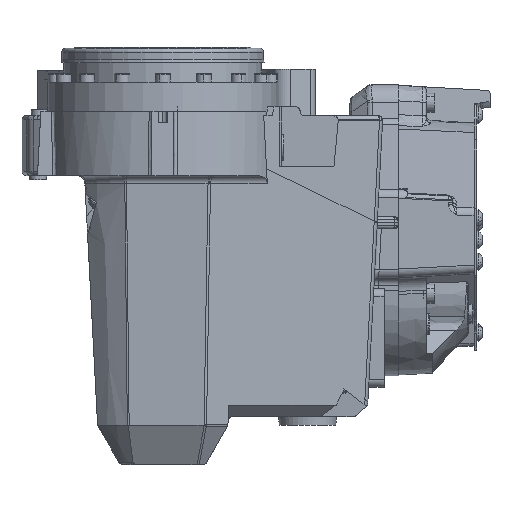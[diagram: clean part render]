
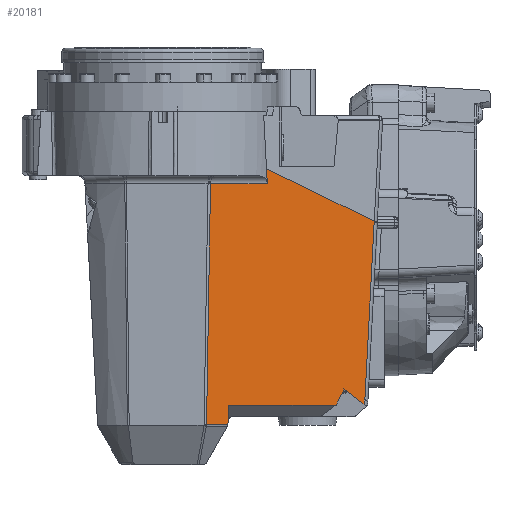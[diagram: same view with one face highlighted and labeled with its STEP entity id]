
A CAD part, front view. The second image highlights one B-rep face of the part: STEP entity #20181.
In plain terms, the highlighted planar face has unit normal (0.573, -0.818, -0.052).
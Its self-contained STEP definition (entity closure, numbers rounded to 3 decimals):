
#13808 = VERTEX_POINT ( 'NONE', #32224 ) ;
#13809 = VERTEX_POINT ( 'NONE', #32226 ) ;
#13815 = VERTEX_POINT ( 'NONE', #32237 ) ;
#13816 = VERTEX_POINT ( 'NONE', #32238 ) ;
#13817 = VERTEX_POINT ( 'NONE', #32239 ) ;
#13818 = VERTEX_POINT ( 'NONE', #32240 ) ;
#13819 = VERTEX_POINT ( 'NONE', #32241 ) ;
#13820 = VERTEX_POINT ( 'NONE', #32242 ) ;
#13847 = VERTEX_POINT ( 'NONE', #32275 ) ;
#13915 = VERTEX_POINT ( 'NONE', #32365 ) ;
#13916 = VERTEX_POINT ( 'NONE', #32367 ) ;
#16755 = AXIS2_PLACEMENT_3D ( 'NONE', #19202, #19212, #19213 ) ;
#19202 = CARTESIAN_POINT ( 'NONE',  ( 312., 1061.374, 74. ) ) ;
#19203 = PLANE ( 'NONE',  #16755 ) ;
#19212 = DIRECTION ( 'NONE',  ( 0.573, -0.818, -0.052 ) ) ;
#19213 = DIRECTION ( 'NONE',  ( 0.819, 0.574, 0. ) ) ;
#20181 = ADVANCED_FACE ( 'NONE', ( #20661 ), #19203, .T. ) ;
#20661 = FACE_OUTER_BOUND ( 'NONE', #51425, .T. ) ;
#32224 = CARTESIAN_POINT ( 'NONE',  ( 299.599, 1065.231, -122.005 ) ) ;
#32226 = CARTESIAN_POINT ( 'NONE',  ( 305.993, 1061.902, 0. ) ) ;
#32237 = CARTESIAN_POINT ( 'NONE',  ( 299.189, 1064.924, -121.696 ) ) ;
#32238 = CARTESIAN_POINT ( 'NONE',  ( 299., 1065.023, -125.31 ) ) ;
#32239 = CARTESIAN_POINT ( 'NONE',  ( 285.34, 1054.799, -115.013 ) ) ;
#32240 = CARTESIAN_POINT ( 'NONE',  ( 279.687, 1051.545, -126.011 ) ) ;
#32241 = CARTESIAN_POINT ( 'NONE',  ( 205.718, 999.751, -126.011 ) ) ;
#32242 = CARTESIAN_POINT ( 'NONE',  ( 205.022, 1000.113, -139.281 ) ) ;
#32275 = CARTESIAN_POINT ( 'NONE',  ( 232.18, 1008.502, 26.814 ) ) ;
#32365 = CARTESIAN_POINT ( 'NONE',  ( 306.046, 1061.875, 1.013 ) ) ;
#32367 = CARTESIAN_POINT ( 'NONE',  ( 231.685, 1007.487, 37.28 ) ) ;
#34412 =( BOUNDED_CURVE ( )  B_SPLINE_CURVE ( 3, ( #48578, #48582, #48583, #48584 ),
 .UNSPECIFIED., .F., .T. ) 
 B_SPLINE_CURVE_WITH_KNOTS ( ( 4, 4 ),
 ( 0.5, 0.514 ),
 .UNSPECIFIED. ) 
 CURVE ( )  GEOMETRIC_REPRESENTATION_ITEM ( )  RATIONAL_B_SPLINE_CURVE ( ( 1., 1., 1., 1. ) ) 
 REPRESENTATION_ITEM ( '' )  );
#41059 = LINE ( 'NONE', #47001, #41065 ) ;
#41061 = VECTOR ( 'NONE', #46997, 1000. ) ;
#41065 = VECTOR ( 'NONE', #47003, 1000. ) ;
#41070 = LINE ( 'NONE', #46978, #41061 ) ;
#41073 = LINE ( 'NONE', #47015, #41080 ) ;
#41078 = LINE ( 'NONE', #47014, #41081 ) ;
#41080 = VECTOR ( 'NONE', #47016, 1000. ) ;
#41081 = VECTOR ( 'NONE', #47017, 1000. ) ;
#41083 = VECTOR ( 'NONE', #47034, 1000. ) ;
#41086 = LINE ( 'NONE', #47033, #41083 ) ;
#41087 = LINE ( 'NONE', #47026, #41088 ) ;
#41088 = VECTOR ( 'NONE', #47027, 1000. ) ;
#41089 = LINE ( 'NONE', #47028, #41090 ) ;
#41090 = VECTOR ( 'NONE', #47029, 1000. ) ;
#41091 = LINE ( 'NONE', #47038, #41096 ) ;
#41093 = VECTOR ( 'NONE', #47049, 1000. ) ;
#41095 = LINE ( 'NONE', #47044, #41093 ) ;
#41096 = VECTOR ( 'NONE', #47039, 1000. ) ;
#41584 = CARTESIAN_POINT ( 'NONE',  ( 192.994, 981.064, 26.814 ) ) ;
#41767 = CARTESIAN_POINT ( 'NONE',  ( 190.249, 989.769, -139.281 ) ) ;
#44031 = VERTEX_POINT ( 'NONE', #41584 ) ;
#44230 = VERTEX_POINT ( 'NONE', #41767 ) ;
#46978 = CARTESIAN_POINT ( 'NONE',  ( 233.233, 1015.801, -75.733 ) ) ;
#46997 = DIRECTION ( 'NONE',  ( -0.685, -0.513, 0.517 ) ) ;
#47001 = CARTESIAN_POINT ( 'NONE',  ( 309.875, 1059.882, 74.071 ) ) ;
#47003 = DIRECTION ( 'NONE',  ( 0.052, -0.027, 0.998 ) ) ;
#47014 = CARTESIAN_POINT ( 'NONE',  ( 309.449, 1059.583, 74.085 ) ) ;
#47015 = CARTESIAN_POINT ( 'NONE',  ( 234.648, 1016.62, -73.043 ) ) ;
#47016 = DIRECTION ( 'NONE',  ( 0.685, 0.513, -0.517 ) ) ;
#47017 = DIRECTION ( 'NONE',  ( 0.052, -0.027, 0.998 ) ) ;
#47026 = CARTESIAN_POINT ( 'NONE',  ( 292.885, 1060.786, -126.011 ) ) ;
#47027 = DIRECTION ( 'NONE',  ( 0.819, 0.574, 0. ) ) ;
#47028 = CARTESIAN_POINT ( 'NONE',  ( 363.156, 1099.6, 36.398 ) ) ;
#47029 = DIRECTION ( 'NONE',  ( -0.442, -0.255, -0.86 ) ) ;
#47033 = CARTESIAN_POINT ( 'NONE',  ( 193.734, 978.716, 71.622 ) ) ;
#47034 = DIRECTION ( 'NONE',  ( -0.016, 0.052, -0.998 ) ) ;
#47038 = CARTESIAN_POINT ( 'NONE',  ( 205.299, 999.969, -134. ) ) ;
#47039 = DIRECTION ( 'NONE',  ( 0.052, -0.027, 0.998 ) ) ;
#47044 = CARTESIAN_POINT ( 'NONE',  ( 205.006, 1000.102, -139.281 ) ) ;
#47049 = DIRECTION ( 'NONE',  ( 0.819, 0.574, 0. ) ) ;
#47185 = CARTESIAN_POINT ( 'NONE',  ( 310.582, 1063.4, 26.814 ) ) ;
#47208 = DIRECTION ( 'NONE',  ( -0.819, -0.574, 0. ) ) ;
#47534 = LINE ( 'NONE', #47185, #47538 ) ;
#47538 = VECTOR ( 'NONE', #47208, 1000. ) ;
#47742 = LINE ( 'NONE', #48585, #47753 ) ;
#47747 = LINE ( 'NONE', #48576, #47748 ) ;
#47748 = VECTOR ( 'NONE', #48577, 1000. ) ;
#47753 = VECTOR ( 'NONE', #48586, 1000. ) ;
#48576 = CARTESIAN_POINT ( 'NONE',  ( 309.875, 1059.882, 74.071 ) ) ;
#48577 = DIRECTION ( 'NONE',  ( 0.052, -0.027, 0.998 ) ) ;
#48578 = CARTESIAN_POINT ( 'NONE',  ( 231.685, 1007.487, 37.28 ) ) ;
#48582 = CARTESIAN_POINT ( 'NONE',  ( 231.853, 1007.824, 33.836 ) ) ;
#48583 = CARTESIAN_POINT ( 'NONE',  ( 232.017, 1008.163, 30.347 ) ) ;
#48584 = CARTESIAN_POINT ( 'NONE',  ( 232.18, 1008.502, 26.814 ) ) ;
#48585 = CARTESIAN_POINT ( 'NONE',  ( 289.118, 1049.494, 9.269 ) ) ;
#48586 = DIRECTION ( 'NONE',  ( -0.751, -0.549, 0.366 ) ) ;
#51425 = EDGE_LOOP ( 'NONE', ( #55487, #55488, #55489, #55490, #55491, #55492, #55493, #55494, #55495, #55496, #55497, #55498, #55499 ) ) ;
#53912 = EDGE_CURVE ( 'NONE', #13816, #13817, #41070, .T. ) ;
#53914 = EDGE_CURVE ( 'NONE', #13808, #13809, #41059, .T. ) ;
#53921 = EDGE_CURVE ( 'NONE', #13815, #13808, #41073, .T. ) ;
#53923 = EDGE_CURVE ( 'NONE', #13816, #13815, #41078, .T. ) ;
#53929 = EDGE_CURVE ( 'NONE', #13819, #13818, #41087, .T. ) ;
#53930 = EDGE_CURVE ( 'NONE', #13817, #13818, #41089, .T. ) ;
#53933 = EDGE_CURVE ( 'NONE', #44031, #44230, #41086, .T. ) ;
#53937 = EDGE_CURVE ( 'NONE', #13820, #13819, #41091, .T. ) ;
#53941 = EDGE_CURVE ( 'NONE', #44230, #13820, #41095, .T. ) ;
#54014 = EDGE_CURVE ( 'NONE', #13847, #44031, #47534, .T. ) ;
#54204 = EDGE_CURVE ( 'NONE', #13809, #13915, #47747, .T. ) ;
#54207 = EDGE_CURVE ( 'NONE', #13916, #13847, #34412, .T. ) ;
#54208 = EDGE_CURVE ( 'NONE', #13915, #13916, #47742, .T. ) ;
#55487 = ORIENTED_EDGE ( 'NONE', *, *, #53933, .T. ) ;
#55488 = ORIENTED_EDGE ( 'NONE', *, *, #53941, .T. ) ;
#55489 = ORIENTED_EDGE ( 'NONE', *, *, #53937, .T. ) ;
#55490 = ORIENTED_EDGE ( 'NONE', *, *, #53929, .T. ) ;
#55491 = ORIENTED_EDGE ( 'NONE', *, *, #53930, .F. ) ;
#55492 = ORIENTED_EDGE ( 'NONE', *, *, #53912, .F. ) ;
#55493 = ORIENTED_EDGE ( 'NONE', *, *, #53923, .T. ) ;
#55494 = ORIENTED_EDGE ( 'NONE', *, *, #53921, .T. ) ;
#55495 = ORIENTED_EDGE ( 'NONE', *, *, #53914, .T. ) ;
#55496 = ORIENTED_EDGE ( 'NONE', *, *, #54204, .T. ) ;
#55497 = ORIENTED_EDGE ( 'NONE', *, *, #54208, .T. ) ;
#55498 = ORIENTED_EDGE ( 'NONE', *, *, #54207, .T. ) ;
#55499 = ORIENTED_EDGE ( 'NONE', *, *, #54014, .T. ) ;
